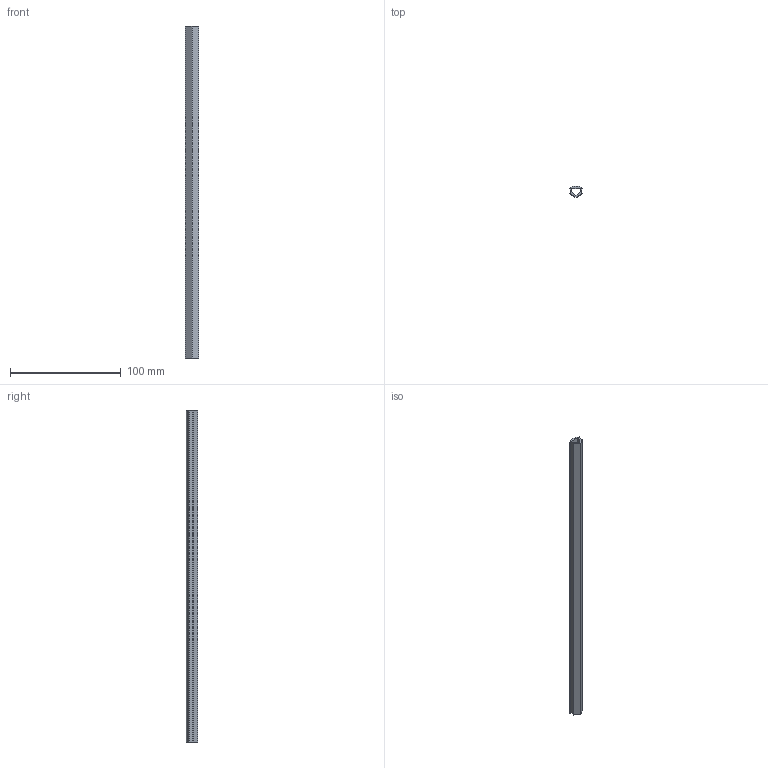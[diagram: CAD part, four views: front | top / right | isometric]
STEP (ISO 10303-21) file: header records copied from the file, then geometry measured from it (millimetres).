
FILE_DESCRIPTION (( 'STEP AP203' ), '1' );
FILE_NAME ('187-CE-DS-10.STEP', '2015-07-09T09:18:48', ( '' ), ( '' ), 'SwSTEP 2.0', 'SolidWorks 2013', '' );
FILE_SCHEMA (( 'CONFIG_CONTROL_DESIGN' ));
Length unit declared in the file: millimetre
Products named in the file (1): 187-CE-DS-10
Bounding box: 12 x 10 x 300 mm (x, y, z)
Volume: 12327.1 mm3; surface area: 18578.5 mm2
Topology: 1 solids, 1 shells, 20 faces, 54 edges, 36 vertices
Faces by surface type: plane 15, cylinder 5
Entity records: 709 total; most frequent: CARTESIAN_POINT 111, ORIENTED_EDGE 108, DIRECTION 106, EDGE_CURVE 54, VECTOR 44, LINE 44, VERTEX_POINT 36, AXIS2_PLACEMENT_3D 31
